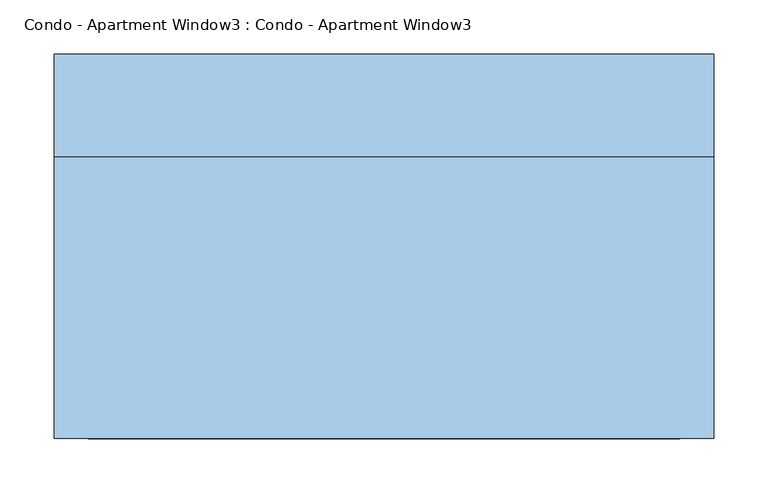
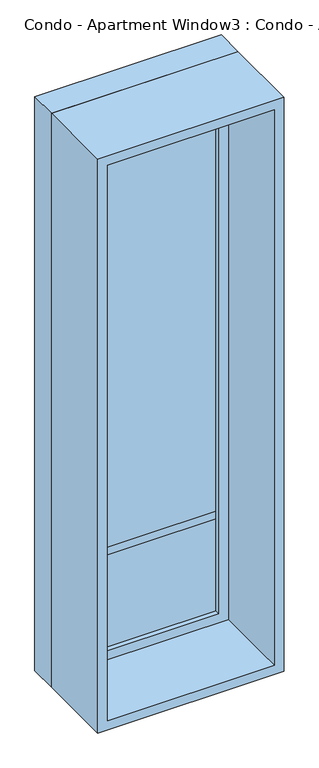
"""IFC4 building model written with IfcOpenShell, lengths in millimetres: window geometry, Condo - Apartment Window3 : Condo - Apartment Window3."""

import ifcopenshell
import ifcopenshell.guid

model = None  # the IFC model being written
_history = None  # IfcOwnerHistory: only IFC2X3 demands one
_inside = {}  # id of a spatial element -> (the spatial element, [elements in it])
_under = {}  # id of a project, library or spatial element -> (it, [spatial elements below it])
_declared = {}  # id of a project -> (the project, [libraries it declares])
_typed = {}  # id of a type object -> (the type object, [elements of that type])
_made_of = {}  # id of a material, layer set ... -> (it, [elements and type objects made of it])


def new_model(schema):
    """Start an empty IFC model of exactly this schema.

    Asked for "IFC4X3", IfcOpenShell would pick the latest addendum, in which some entities
    have other attributes; the version numbers below select the first issue.
    IFC2X3 requires an IfcOwnerHistory on every rooted entity: one is made here for all.
    """
    global model, _history
    if schema == "IFC4X3":
        model = ifcopenshell.file(schema_version=(4, 3, 0, 0))
    else:
        model = ifcopenshell.file(schema=schema)
    _inside.clear()
    _under.clear()
    _declared.clear()
    _typed.clear()
    _made_of.clear()
    _history = None
    if model.schema == "IFC2X3":
        org = make("IfcOrganization", Name="unknown")
        user = make(
            "IfcPersonAndOrganization",
            ThePerson=make("IfcPerson", FamilyName="unknown"),
            TheOrganization=org,
        )
        app = make(
            "IfcApplication",
            ApplicationDeveloper=org,
            Version="unknown",
            ApplicationFullName="unknown",
            ApplicationIdentifier="unknown",
        )
        _history = make(
            "IfcOwnerHistory",
            OwningUser=user,
            OwningApplication=app,
            ChangeAction="ADDED",
            CreationDate=0,
        )
    return model


def make(cls, **values):
    """One entity of the class cls with the attributes given. An attribute that is None is left unset."""
    return model.create_entity(
        cls, **{name: value for name, value in values.items() if value is not None}
    )


def rooted(cls, **values):
    """An entity with a GlobalId (a new one), such as an element, a storey or a relation."""
    return make(cls, GlobalId=ifcopenshell.guid.new(), OwnerHistory=_history, **values)


def si_unit(unit_type, name, prefix=None):
    """IfcSIUnit, for example si_unit("LENGTHUNIT", "METRE", prefix="MILLI")."""
    return make("IfcSIUnit", UnitType=unit_type, Prefix=prefix, Name=name)


def assignment(units):
    """IfcUnitAssignment: the units of a project."""
    return None if units is None else make("IfcUnitAssignment", Units=units)


def point(xyz):
    """IfcCartesianPoint."""
    return None if xyz is None else make("IfcCartesianPoint", Coordinates=xyz)


def direction(xyz):
    """IfcDirection."""
    return None if xyz is None else make("IfcDirection", DirectionRatios=xyz)


def frame(location, z_axis=None, x_axis=None):
    """IfcAxis2Placement3D, a coordinate frame: its origin and axes. An axis left out is left unset."""
    return make(
        "IfcAxis2Placement3D",
        Location=point(location),
        Axis=direction(z_axis),
        RefDirection=direction(x_axis),
    )


def origin():
    """The frame at (0, 0, 0) with its axes left unset."""
    return frame((0.0, 0.0, 0.0))


def place(relative_to, where):
    """IfcLocalPlacement: puts the frame where relative to a parent placement (None: the world)."""
    return make(
        "IfcLocalPlacement", PlacementRelTo=relative_to, RelativePlacement=where
    )


def context(
    kind, dimensions, precision=None, world=None, true_north=None, identifier=None
):
    """IfcGeometricRepresentationContext, for example the 3D "Model" context."""
    return make(
        "IfcGeometricRepresentationContext",
        ContextIdentifier=identifier,
        ContextType=kind,
        CoordinateSpaceDimension=dimensions,
        Precision=precision,
        WorldCoordinateSystem=world,
        TrueNorth=true_north,
    )


def project(units=None, contexts=None):
    """IfcProject with its units and contexts."""
    return rooted(
        "IfcProject",
        Name="project",
        RepresentationContexts=contexts,
        UnitsInContext=assignment(units),
    )


def spatial(cls, under=None, at=None, **own):
    """A site, building, storey or space (cls), placed at a placement, below another one or the project."""
    s = rooted(cls, ObjectPlacement=at, **own)
    if under is not None:
        _under.setdefault(under.id(), (under, []))[1].append(s)
    return s


def polyline(points):
    """IfcPolyline through the points."""
    return make("IfcPolyline", Points=[point(p) for p in points])


def outline(outer, holes=None, kind="AREA"):
    """IfcArbitraryClosedProfileDef: a profile drawn as a closed curve; with holes, ...WithVoids."""
    if holes is None:
        return make("IfcArbitraryClosedProfileDef", ProfileType=kind, OuterCurve=outer)
    return make(
        "IfcArbitraryProfileDefWithVoids",
        ProfileType=kind,
        OuterCurve=outer,
        InnerCurves=holes,
    )


def extrude(swept, where, along, depth):
    """IfcExtrudedAreaSolid: the profile swept, set in the frame where, extruded along a direction by depth."""
    return make(
        "IfcExtrudedAreaSolid",
        SweptArea=swept,
        Position=where,
        ExtrudedDirection=direction(along),
        Depth=depth,
    )


def shape(context_of_items, identifier, shape_type, items):
    """IfcShapeRepresentation: the items that make up one representation, for example the "Body"."""
    return make(
        "IfcShapeRepresentation",
        ContextOfItems=context_of_items,
        RepresentationIdentifier=identifier,
        RepresentationType=shape_type,
        Items=items,
    )


def source(mapping_origin, context_of_items, identifier, shape_type, items):
    """IfcRepresentationMap: a shape defined once, which mapped items show again and again."""
    return make(
        "IfcRepresentationMap",
        MappingOrigin=mapping_origin,
        MappedRepresentation=shape(context_of_items, identifier, shape_type, items),
    )


def transform(
    local_origin,
    x_axis=None,
    y_axis=None,
    z_axis=None,
    scale=None,
    scale2=None,
    scale3=None,
    uniform=True,
):
    """IfcCartesianTransformationOperator3D, or its non-uniform kind. x_axis, y_axis, z_axis: its Axis1, 2, 3."""
    if uniform:
        return make(
            "IfcCartesianTransformationOperator3D",
            Axis1=direction(x_axis),
            Axis2=direction(y_axis),
            LocalOrigin=point(local_origin),
            Scale=scale,
            Axis3=direction(z_axis),
        )
    return make(
        "IfcCartesianTransformationOperator3DnonUniform",
        Axis1=direction(x_axis),
        Axis2=direction(y_axis),
        LocalOrigin=point(local_origin),
        Scale=scale,
        Axis3=direction(z_axis),
        Scale2=scale2,
        Scale3=scale3,
    )


def mapped(mapping_source, mapping_target):
    """IfcMappedItem: shows the shape of a source again, moved by a transform."""
    return make(
        "IfcMappedItem", MappingSource=mapping_source, MappingTarget=mapping_target
    )


def made_of(thing, what):
    """Note that an element or type object is made of a material, layer set ...; save() writes the relation."""
    if what is not None:
        _made_of.setdefault(what.id(), (what, []))[1].append(thing)
    return thing


def element(
    cls,
    number,
    at=None,
    inside=None,
    cuts=None,
    type_object=None,
    material=None,
    context=None,
    identifier="Body",
    shape_type=None,
    held_by="IfcProductDefinitionShape",
    body=None,
    shapes=None,
    **own,
):
    """One element of the class cls, such as IfcWall. Its Tag is "e" and its number.

    at: its placement. inside: the storey or other place that contains it. cuts: it is an
    opening in that element (IfcRelVoidsElement). A single representation is given by context,
    identifier, shape_type and body (its items); several are given by shapes. held_by: the class
    of the entity that holds the representations. save() writes the other relations.
    """
    e = rooted(cls, Tag="e%d" % number, ObjectPlacement=at, **own)
    if body is not None:
        shapes = [shape(context, identifier, shape_type, body)]
    if shapes is not None:
        e.Representation = make(held_by, Representations=shapes)
    if inside is not None:
        _inside.setdefault(inside.id(), (inside, []))[1].append(e)
    if cuts is not None:
        rooted(
            "IfcRelVoidsElement", RelatingBuildingElement=cuts, RelatedOpeningElement=e
        )
    if type_object is not None:
        _typed.setdefault(type_object.id(), (type_object, []))[1].append(e)
    return made_of(e, material)


def aggregate(whole, parts):
    """IfcRelAggregates: a whole, such as a stair, and the parts it consists of."""
    return rooted("IfcRelAggregates", RelatingObject=whole, RelatedObjects=parts)


def save(model, path):
    """Write the relations noted so far, then the file.

    IfcRelAggregates (storeys below a building ...), IfcRelContainedInSpatialStructure (elements
    in a storey), IfcRelDefinesByType, IfcRelAssociatesMaterial and IfcRelDeclares: one each for
    every whole, place, type object, material and project.
    """
    for whole, parts in _under.values():
        aggregate(whole, parts)
    for where, things in _inside.values():
        rooted(
            "IfcRelContainedInSpatialStructure",
            RelatedElements=things,
            RelatingStructure=where,
        )
    for kind, things in _typed.values():
        rooted("IfcRelDefinesByType", RelatedObjects=things, RelatingType=kind)
    for what, things in _made_of.values():
        rooted("IfcRelAssociatesMaterial", RelatedObjects=things, RelatingMaterial=what)
    for by, libraries in _declared.values():
        rooted("IfcRelDeclares", RelatingContext=by, RelatedDefinitions=libraries)
    model.write(path)


def condo_apartment_window3_condo_apartment_window3_d8555c09(model_context):
    return source(origin(), model_context, "Body", "SweptSolid", [
        extrude(outline(polyline([(-279.4, 123.825), (203.2, 123.825), (203.2, 98.425), (-279.4, 98.425), (-279.4, 123.825)])), frame((0.0, 0.0, 673.1), z_axis=(0.0, 0.0, 1.0), x_axis=(1.0, 0.0, 0.0)), (0.0, 0.0, 1.0), 25.4),
        extrude(outline(polyline([(203.2, 98.425), (-279.4, 98.425), (-279.4, 111.125), (203.2, 111.125), (203.2, 98.425)])), frame((0.0, 0.0, 355.6), z_axis=(0.0, 0.0, 1.0), x_axis=(1.0, 0.0, 0.0)), (0.0, 0.0, 1.0), 1854.2),
        extrude(outline(polyline([(2254.25, -323.85), (311.15, -323.85), (311.15, 247.65), (2254.25, 247.65), (2254.25, -323.85)]), holes=[polyline([(2209.8, -279.4), (2209.8, 203.2), (355.6, 203.2), (355.6, -279.4), (2209.8, -279.4)])]), frame((0.0, 82.55, 0.0), z_axis=(0.0, 1.0, 0.0), x_axis=(0.0, 0.0, 1.0)), (0.0, 0.0, 1.0), 44.45),
        extrude(outline(polyline([(2273.3, -342.9), (292.1, -342.9), (292.1, 266.7), (2273.3, 266.7), (2273.3, -342.9)]), holes=[polyline([(2241.55, -311.15), (2241.55, 234.95), (323.85, 234.95), (323.85, -311.15), (2241.55, -311.15)])]), frame((0.0, -177.8, 0.0), z_axis=(0.0, 1.0, 0.0), x_axis=(0.0, 0.0, 1.0)), (0.0, 0.0, 1.0), 260.35),
        extrude(outline(polyline([(2273.3, 266.7), (2273.3, -342.9), (292.1, -342.9), (292.1, 266.7), (2273.3, 266.7)]), holes=[polyline([(2254.25, 247.65), (311.15, 247.65), (311.15, -323.85), (2254.25, -323.85), (2254.25, 247.65)])]), frame((0.0, 82.55, 0.0), z_axis=(0.0, 1.0, 0.0), x_axis=(0.0, 0.0, 1.0)), (0.0, 0.0, 1.0), 95.25),
    ])


if __name__ == "__main__":
    model = new_model("IFC4")
    model_context = context("Model", 3, world=origin())
    ifc_project = project(units=[si_unit("LENGTHUNIT", "METRE", prefix="MILLI")], contexts=[model_context])
    site = spatial("IfcSite", under=ifc_project)
    building = spatial("IfcBuilding", under=site)
    placement = place(None, origin())
    condo_apartment_window3_condo_apartment_window3_shape = condo_apartment_window3_condo_apartment_window3_d8555c09(model_context)
    element("IfcWindow", 1, ObjectType="Condo - Apartment Window3 : Condo - Apartment Window3", at=placement, inside=building, context=model_context, shape_type="MappedRepresentation", body=[
        mapped(condo_apartment_window3_condo_apartment_window3_shape, transform((0.0, 0.0, 0.0), x_axis=(1.0, 0.0, 0.0), y_axis=(0.0, 1.0, 0.0), z_axis=(0.0, 0.0, 1.0))),
    ])
    save(model, "model.ifc")
